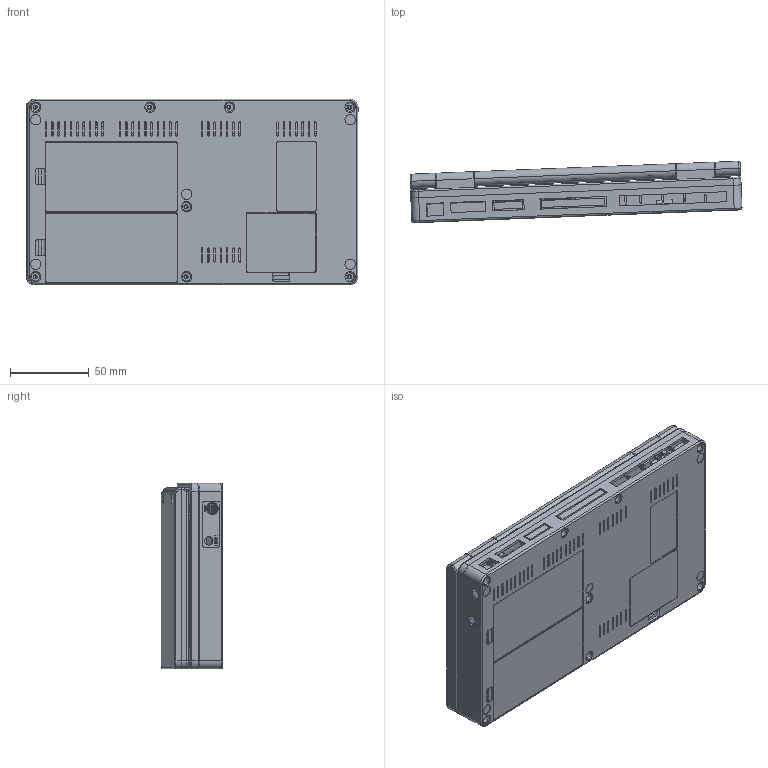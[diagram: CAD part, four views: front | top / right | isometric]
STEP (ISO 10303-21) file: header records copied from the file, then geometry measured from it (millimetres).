
FILE_DESCRIPTION (( 'STEP AP203' ), '1' );
FILE_NAME ('俋褲蚾饜.STEP', '2023-07-04T11:46:00', ( 'shan123' ), ( 'Razer' ), 'SwSTEP 2.0', 'SolidWorks 2018', '' );
FILE_SCHEMA (( 'CONFIG_CONTROL_DESIGN' ));
Length unit declared in the file: millimetre
Products named in the file (9): ________-0.STEP; 俋褲蚾饜.STEP; ________.STEP; ______-1.STEP; ________-4.STEP; ______.STEP; 俋褲蚾饜; ______-3.STEP; ______-2.STEP
Assembly tree (10 placements, depth 3):
  俋褲蚾饜
    俋褲蚾饜.STEP
      ________.STEP
      ______.STEP
      ________-0.STEP
      ______-1.STEP
      ______-2.STEP  x2
      ______-3.STEP  x2
      ________-4.STEP
Bounding box: 210.57 x 38.87 x 117.6 mm (x, y, z)
Volume: 162017.4 mm3; surface area: 234661.4 mm2
Topology: 10 solids, 10 shells, 1989 faces, 5656 edges, 3738 vertices
Faces by surface type: plane 1427, cylinder 524, torus 32, cone 6
Entity records: 62657 total; most frequent: CARTESIAN_POINT 10837, ORIENTED_EDGE 10760, DIRECTION 10316, EDGE_CURVE 5380, LINE 4250, VECTOR 4250, VERTEX_POINT 3554, AXIS2_PLACEMENT_3D 3033
